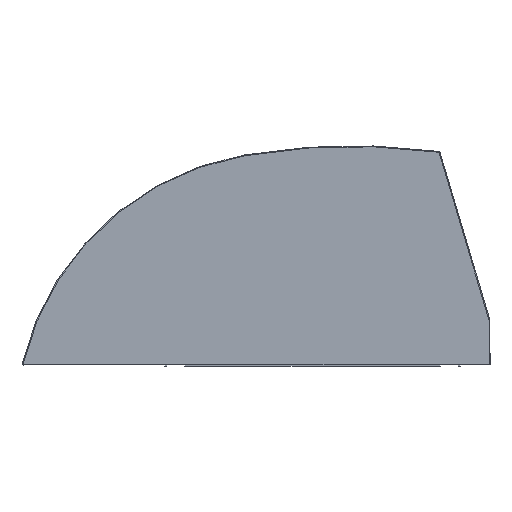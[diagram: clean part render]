
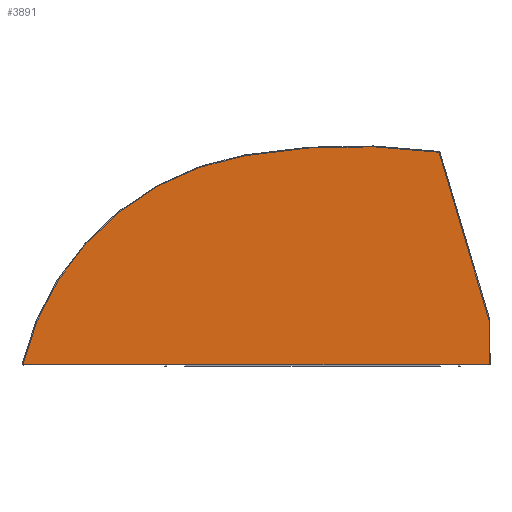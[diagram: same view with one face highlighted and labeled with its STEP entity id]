
A CAD part, left-side view. The second image highlights one B-rep face of the part: STEP entity #3891.
In plain terms, the highlighted planar face has unit normal (-1, 0, 0) as drawn and (0, 0, -1) by its records, which use the part's own axes.
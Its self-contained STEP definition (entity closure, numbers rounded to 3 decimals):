
#3653=CARTESIAN_POINT('',(-185.598,-88.802,0.0));
#3654=VERTEX_POINT('',#3653);
#3661=CARTESIAN_POINT('',(-185.671,-89.302,0.0));
#3662=VERTEX_POINT('',#3661);
#3663=CARTESIAN_POINT('',(-183.921,-89.302,0.0));
#3664=DIRECTION('',(0.0,0.0,-1.0));
#3665=DIRECTION('',(0.958,-0.286,0.0));
#3666=AXIS2_PLACEMENT_3D('',#3663,#3664,#3665);
#3667=CIRCLE('',#3666,1.75);
#3668=EDGE_CURVE('',#3662,#3654,#3667,.T.);
#3692=CARTESIAN_POINT('',(-141.,60.799,0.0));
#3693=VERTEX_POINT('',#3692);
#3700=CARTESIAN_POINT('',(-185.598,-88.802,0.0));
#3701=DIRECTION('',(0.286,0.958,0.0));
#3702=VECTOR('',#3701,156.107);
#3703=LINE('',#3700,#3702);
#3704=EDGE_CURVE('',#3654,#3693,#3703,.T.);
#3724=CARTESIAN_POINT('',(-139.556,62.033,0.0));
#3725=VERTEX_POINT('',#3724);
#3732=CARTESIAN_POINT('',(-139.323,60.299,0.0));
#3733=DIRECTION('',(0.0,0.0,-1.));
#3734=DIRECTION('',(0.133,-0.991,0.0));
#3735=AXIS2_PLACEMENT_3D('',#3732,#3733,#3734);
#3736=CIRCLE('',#3735,1.75);
#3737=EDGE_CURVE('',#3693,#3725,#3736,.T.);
#3757=CARTESIAN_POINT('',(33.94,58.765,0.0));
#3758=VERTEX_POINT('',#3757);
#3765=CARTESIAN_POINT('',(-63.48,-506.173,0.0));
#3766=DIRECTION('',(0.0,0.0,-1.0));
#3767=DIRECTION('',(-0.17,-0.985,0.0));
#3768=AXIS2_PLACEMENT_3D('',#3765,#3766,#3767);
#3769=CIRCLE('',#3768,573.277);
#3770=EDGE_CURVE('',#3725,#3758,#3769,.T.);
#3790=CARTESIAN_POINT('',(232.809,-128.937,0.0));
#3791=VERTEX_POINT('',#3790);
#3798=CARTESIAN_POINT('',(-8.09,-184.966,0.0));
#3799=DIRECTION('',(0.0,0.0,-1.));
#3800=DIRECTION('',(-0.974,-0.226,0.0));
#3801=AXIS2_PLACEMENT_3D('',#3798,#3799,#3800);
#3802=CIRCLE('',#3801,247.328);
#3803=EDGE_CURVE('',#3758,#3791,#3802,.T.);
#3822=CARTESIAN_POINT('',(-185.671,-128.937,0.0));
#3823=VERTEX_POINT('',#3822);
#3830=CARTESIAN_POINT('',(232.809,-128.937,0.0));
#3831=DIRECTION('',(-1.0,0.0,0.0));
#3832=VECTOR('',#3831,418.48);
#3833=LINE('',#3830,#3832);
#3834=EDGE_CURVE('',#3791,#3823,#3833,.T.);
#3852=CARTESIAN_POINT('',(-185.671,-128.937,0.0));
#3853=DIRECTION('',(0.0,1.0,0.0));
#3854=VECTOR('',#3853,39.635);
#3855=LINE('',#3852,#3854);
#3856=EDGE_CURVE('',#3823,#3662,#3855,.T.);
#3877=CARTESIAN_POINT('',(10.167,-50.117,0.0));
#3878=DIRECTION('',(0.0,0.0,1.0));
#3879=DIRECTION('',(1.0,0.0,0.0));
#3880=AXIS2_PLACEMENT_3D('',#3877,#3878,#3879);
#3881=PLANE('',#3880);
#3882=ORIENTED_EDGE('',*,*,#3856,.T.);
#3883=ORIENTED_EDGE('',*,*,#3668,.T.);
#3884=ORIENTED_EDGE('',*,*,#3704,.T.);
#3885=ORIENTED_EDGE('',*,*,#3737,.T.);
#3886=ORIENTED_EDGE('',*,*,#3770,.T.);
#3887=ORIENTED_EDGE('',*,*,#3803,.T.);
#3888=ORIENTED_EDGE('',*,*,#3834,.T.);
#3889=EDGE_LOOP('',(#3882,#3883,#3884,#3885,#3886,#3887,#3888));
#3890=FACE_OUTER_BOUND('',#3889,.T.);
#3891=ADVANCED_FACE('',(#3890),#3881,.F.);
